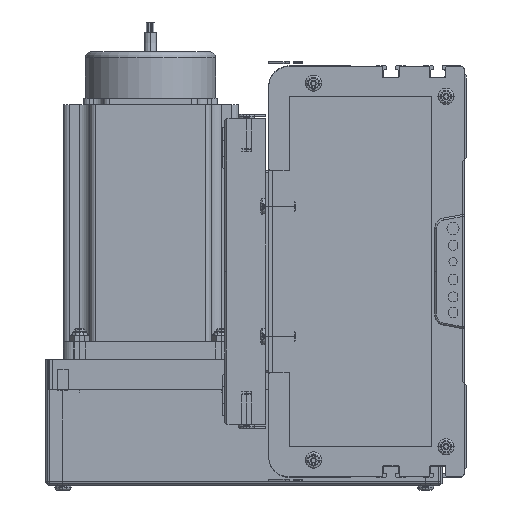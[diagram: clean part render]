
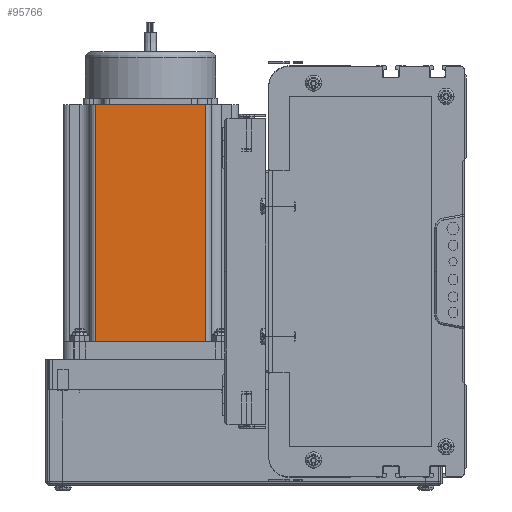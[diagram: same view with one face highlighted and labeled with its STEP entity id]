
A CAD part, left-side view. The second image highlights one B-rep face of the part: STEP entity #95766.
In plain terms, the highlighted planar face has unit normal (-1, 0, 0) as drawn and (0, -1, 0) by its records, which use the part's own axes.
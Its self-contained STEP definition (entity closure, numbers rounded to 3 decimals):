
#1962 = CARTESIAN_POINT ( 'NONE',  ( 16.16, 0., 0. ) ) ;
#4704 = VECTOR ( 'NONE', #5488, 1000. ) ;
#5068 = CARTESIAN_POINT ( 'NONE',  ( 0., 0., 116.5 ) ) ;
#5071 = LINE ( 'NONE', #5068, #5220 ) ;
#5219 = DIRECTION ( 'NONE',  ( 1., 0., 0. ) ) ;
#5220 = VECTOR ( 'NONE', #5219, 1000. ) ;
#5324 = LINE ( 'NONE', #5478, #5477 ) ;
#5339 = FACE_OUTER_BOUND ( 'NONE', #95987, .T. ) ;
#5350 = AXIS2_PLACEMENT_3D ( 'NONE', #5373, #5371, #5486 ) ;
#5371 = DIRECTION ( 'NONE',  ( 0., 1., 0. ) ) ;
#5373 = CARTESIAN_POINT ( 'NONE',  ( 0., 0., 116.5 ) ) ;
#5389 = PLANE ( 'NONE',  #5350 ) ;
#5475 = DIRECTION ( 'NONE',  ( 1., 0., 0. ) ) ;
#5477 = VECTOR ( 'NONE', #5475, 1000. ) ;
#5478 = CARTESIAN_POINT ( 'NONE',  ( 0., 0., 0. ) ) ;
#5486 = DIRECTION ( 'NONE',  ( 0., 0., 1. ) ) ;
#5488 = DIRECTION ( 'NONE',  ( 0., 0., -1. ) ) ;
#9100 = CARTESIAN_POINT ( 'NONE',  ( 16.16, 0., 116.5 ) ) ;
#9110 = CARTESIAN_POINT ( 'NONE',  ( 69.74, 0., 0. ) ) ;
#9560 = CARTESIAN_POINT ( 'NONE',  ( 16.16, 0., 116.5 ) ) ;
#9562 = LINE ( 'NONE', #9560, #4704 ) ;
#9592 = DIRECTION ( 'NONE',  ( 0., 0., 1. ) ) ;
#9593 = VECTOR ( 'NONE', #9592, 1000. ) ;
#9594 = CARTESIAN_POINT ( 'NONE',  ( 69.74, 0., 116.5 ) ) ;
#9632 = LINE ( 'NONE', #9594, #9593 ) ;
#9643 = CARTESIAN_POINT ( 'NONE',  ( 69.74, 0., 116.5 ) ) ;
#95530 = VERTEX_POINT ( 'NONE', #1962 ) ;
#95722 = EDGE_CURVE ( 'NONE', #95797, #95928, #5071, .T. ) ;
#95766 = ADVANCED_FACE ( 'NONE', ( #5339 ), #5389, .F. ) ;
#95767 = EDGE_CURVE ( 'NONE', #95530, #95796, #5324, .T. ) ;
#95779 = ORIENTED_EDGE ( 'NONE', *, *, #95988, .T. ) ;
#95796 = VERTEX_POINT ( 'NONE', #9110 ) ;
#95797 = VERTEX_POINT ( 'NONE', #9100 ) ;
#95804 = ORIENTED_EDGE ( 'NONE', *, *, #95767, .T. ) ;
#95807 = ORIENTED_EDGE ( 'NONE', *, *, #95722, .F. ) ;
#95910 = ORIENTED_EDGE ( 'NONE', *, *, #95911, .T. ) ;
#95911 = EDGE_CURVE ( 'NONE', #95796, #95928, #9632, .T. ) ;
#95928 = VERTEX_POINT ( 'NONE', #9643 ) ;
#95987 = EDGE_LOOP ( 'NONE', ( #95804, #95910, #95807, #95779 ) ) ;
#95988 = EDGE_CURVE ( 'NONE', #95797, #95530, #9562, .T. ) ;
